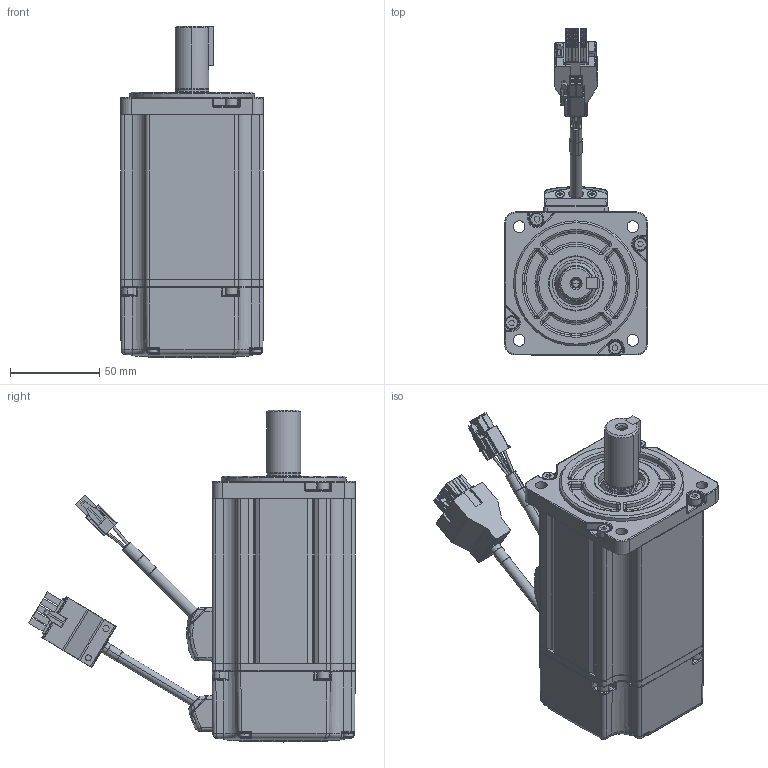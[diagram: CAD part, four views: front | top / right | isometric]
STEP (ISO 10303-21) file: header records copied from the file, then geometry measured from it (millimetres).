
FILE_DESCRIPTION (( 'STEP AP203' ), '1' );
FILE_NAME ('80-1000W.STEP', '2015-05-07T07:36:13', ( '' ), ( '' ), 'SwSTEP 2.0', 'SolidWorks 2012', '' );
FILE_SCHEMA (( 'CONFIG_CONTROL_DESIGN' ));
Products named in the file (1): 80-1000W
Bounding box: 80 x 182.67 x 185.8 mm (x, y, z)
Surface area: 89383.5 mm2 (no closed solid volume)
Topology: 0 solids, 58 shells, 1278 faces, 3735 edges, 2486 vertices
Faces by surface type: plane 539, cylinder 368, bspline 130, cone 105, torus 96, sphere 40
Entity records: 47698 total; most frequent: CARTESIAN_POINT 14656, DIRECTION 6913, ORIENTED_EDGE 6377, EDGE_CURVE 3723, VERTEX_POINT 2486, AXIS2_PLACEMENT_3D 2419, VECTOR 2075, LINE 2075
